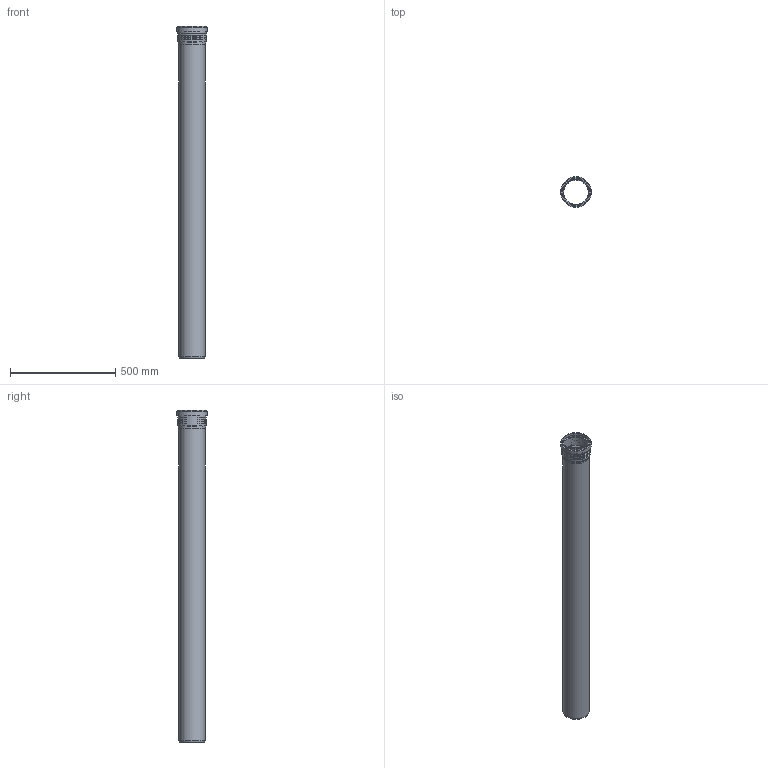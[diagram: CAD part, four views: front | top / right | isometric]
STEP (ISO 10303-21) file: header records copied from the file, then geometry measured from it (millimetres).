
FILE_DESCRIPTION(/* description */ (''),/* implementation_level */ '2;1');
FILE_NAME(/* name */ 'Z:\Geberit\Export\NewStep\390605.stp',/* time_stamp */ '2014-04-02T08:15:29+02:00',/* author */ ('ML'),/* organization */ (''),/* preprocessor_version */ 'ST-DEVELOPER v15.2',/* originating_system */ 'Autodesk Inventor 2014',/* authorisation */ '');
FILE_SCHEMA (('AUTOMOTIVE_DESIGN { 1 0 10303 214 3 1 1 }'));
Length unit declared in the file: millimetre
Products named in the file (3): 861670; 861586ohne; 390605
Bounding box: 144.95 x 144.95 x 1573.9 mm (x, y, z)
Volume: 2563060.7 mm3; surface area: 1229135.7 mm2
Topology: 2 solids, 2 shells, 47 faces, 104 edges, 71 vertices
Faces by surface type: torus 24, cylinder 11, plane 10, cone 2
Full cylindrical faces by diameter (mm): 116.8 x2, 125.2 x2, 126.2 x2, 130.4 x1, 134.6 x2, 136.55 x1, 144.95 x1
Entity records: 2003 total; most frequent: CARTESIAN_POINT 962, DIRECTION 182, ORIENTED_EDGE 174, AXIS2_PLACEMENT_3D 91, EDGE_CURVE 87, EDGE_LOOP 78, VERTEX_POINT 71, STYLED_ITEM 49
